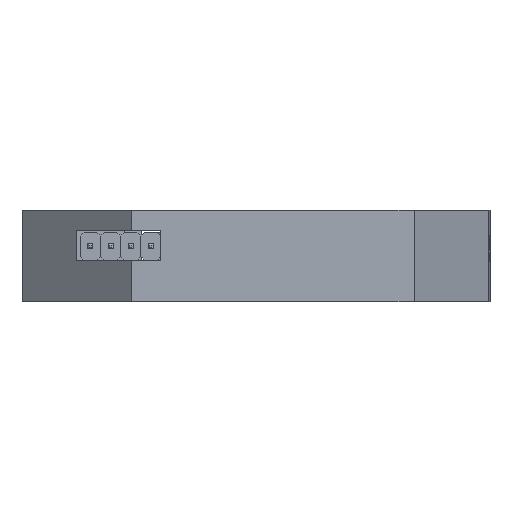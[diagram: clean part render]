
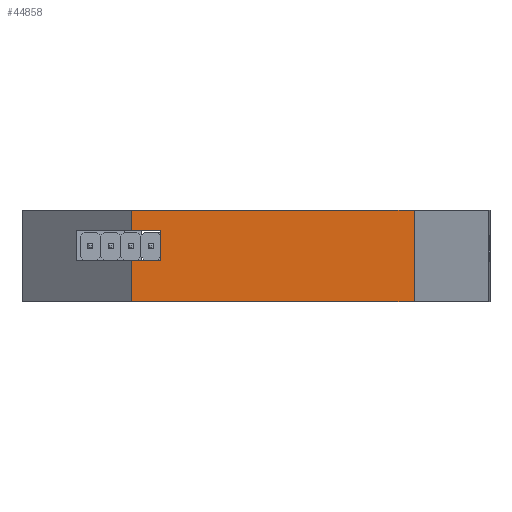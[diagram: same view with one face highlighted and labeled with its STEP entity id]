
A CAD part, left-side view. The second image highlights one B-rep face of the part: STEP entity #44858.
In plain terms, the highlighted planar face has unit normal (-1, 0.009, 0).
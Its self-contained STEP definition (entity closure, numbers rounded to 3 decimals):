
#4476=FACE_OUTER_BOUND('',#6812,.T.);
#6812=EDGE_LOOP('',(#41022,#41023,#41024,#41025,#41026,#41027,#41028,#41029));
#12270=LINE('',#74342,#17796);
#12277=LINE('',#74355,#17803);
#12281=LINE('',#74364,#17807);
#12284=LINE('',#74369,#17810);
#12286=LINE('',#74373,#17812);
#12289=LINE('',#74377,#17815);
#12306=LINE('',#74412,#17832);
#12340=LINE('',#74476,#17866);
#17796=VECTOR('',#60233,10.);
#17803=VECTOR('',#60242,10.);
#17807=VECTOR('',#60250,10.);
#17810=VECTOR('',#60255,10.);
#17812=VECTOR('',#60259,10.);
#17815=VECTOR('',#60262,10.);
#17832=VECTOR('',#60291,10.);
#17866=VECTOR('',#60355,10.);
#22670=VERTEX_POINT('',#74339);
#22671=VERTEX_POINT('',#74341);
#22674=VERTEX_POINT('',#74348);
#22676=VERTEX_POINT('',#74353);
#22679=VERTEX_POINT('',#74363);
#22680=VERTEX_POINT('',#74367);
#22681=VERTEX_POINT('',#74372);
#22694=VERTEX_POINT('',#74411);
#29264=EDGE_CURVE('',#22670,#22671,#12270,.T.);
#29271=EDGE_CURVE('',#22674,#22676,#12277,.T.);
#29275=EDGE_CURVE('',#22676,#22679,#12281,.T.);
#29278=EDGE_CURVE('',#22679,#22680,#12284,.T.);
#29280=EDGE_CURVE('',#22674,#22681,#12286,.T.);
#29283=EDGE_CURVE('',#22671,#22680,#12289,.T.);
#29300=EDGE_CURVE('',#22681,#22694,#12306,.T.);
#29334=EDGE_CURVE('',#22670,#22694,#12340,.T.);
#41022=ORIENTED_EDGE('',*,*,#29278,.T.);
#41023=ORIENTED_EDGE('',*,*,#29283,.F.);
#41024=ORIENTED_EDGE('',*,*,#29264,.F.);
#41025=ORIENTED_EDGE('',*,*,#29334,.T.);
#41026=ORIENTED_EDGE('',*,*,#29300,.F.);
#41027=ORIENTED_EDGE('',*,*,#29280,.F.);
#41028=ORIENTED_EDGE('',*,*,#29271,.T.);
#41029=ORIENTED_EDGE('',*,*,#29275,.T.);
#42776=PLANE('',#48410);
#44858=ADVANCED_FACE('',(#4476),#42776,.T.);
#48410=AXIS2_PLACEMENT_3D('',#74477,#60356,#60357);
#60233=DIRECTION('',(0.01,1.,0.));
#60242=DIRECTION('',(-0.01,-1.,0.));
#60250=DIRECTION('',(0.,0.,-1.));
#60255=DIRECTION('',(0.01,1.,0.));
#60259=DIRECTION('',(0.,0.,1.));
#60262=DIRECTION('',(0.,0.,1.));
#60291=DIRECTION('',(-0.01,-1.,0.));
#60355=DIRECTION('',(0.,0.,1.));
#60356=DIRECTION('center_axis',(-1.,0.01,
0.));
#60357=DIRECTION('ref_axis',(-0.01,-1.,0.));
#74339=CARTESIAN_POINT('',(88.428,-123.866,-3.65));
#74341=CARTESIAN_POINT('',(88.768,-88.208,-3.65));
#74342=CARTESIAN_POINT('',(88.428,-123.866,-3.65));
#74348=CARTESIAN_POINT('',(88.768,-88.208,5.415));
#74353=CARTESIAN_POINT('',(88.732,-91.938,5.415));
#74355=CARTESIAN_POINT('',(88.751,-90.,5.415));
#74363=CARTESIAN_POINT('',(88.732,-91.938,1.585));
#74364=CARTESIAN_POINT('',(88.732,-91.938,0.768));
#74367=CARTESIAN_POINT('',(88.768,-88.208,1.585));
#74369=CARTESIAN_POINT('',(88.801,-84.652,1.585));
#74372=CARTESIAN_POINT('',(88.768,-88.208,7.95));
#74373=CARTESIAN_POINT('',(88.768,-88.208,-0.05));
#74377=CARTESIAN_POINT('',(88.768,-88.208,-0.05));
#74411=CARTESIAN_POINT('',(88.428,-123.866,7.95));
#74412=CARTESIAN_POINT('',(88.768,-88.208,7.95));
#74476=CARTESIAN_POINT('',(88.428,-123.866,-0.05));
#74477=CARTESIAN_POINT('Origin',(88.768,-88.208,-0.05));
